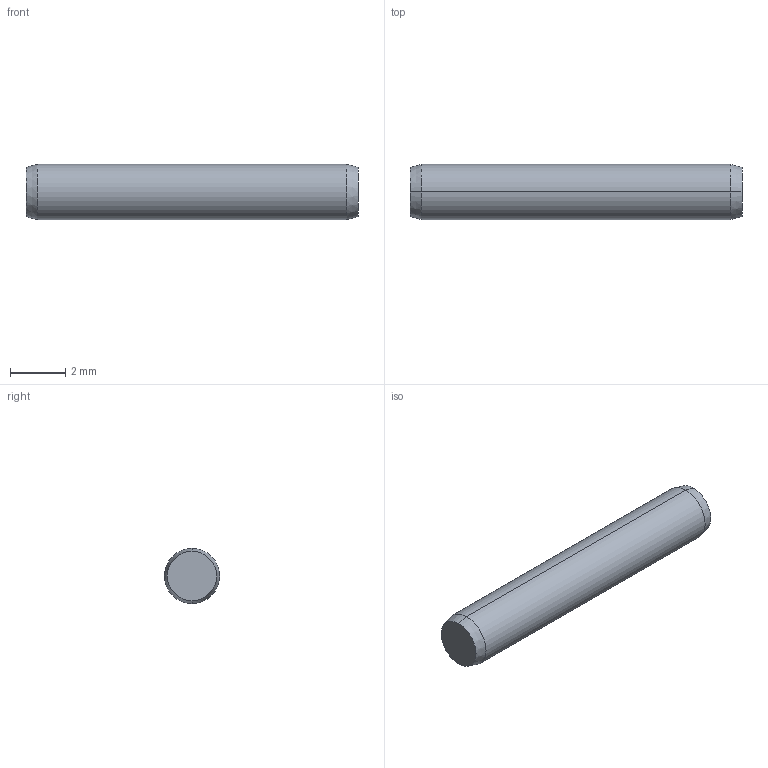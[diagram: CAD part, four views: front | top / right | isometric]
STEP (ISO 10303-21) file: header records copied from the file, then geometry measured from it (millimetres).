
FILE_DESCRIPTION (( 'STEP AP203' ), '1' );
FILE_NAME ('P1206.020-012.step', '2017-06-14T07:56:54', ( 'User' ), ( '' ), 'SwSTEP 2.0', 'SolidWorks 2009', '' );
FILE_SCHEMA (( 'CONFIG_CONTROL_DESIGN' ));
Length unit declared in the file: millimetre
Products named in the file (1): P1206.020-012
Bounding box: 12 x 2 x 2 mm (x, y, z)
Volume: 37.4 mm3; surface area: 80.3 mm2
Topology: 1 solids, 1 shells, 8 faces, 14 edges, 8 vertices
Faces by surface type: cone 4, cylinder 2, plane 2
Entity records: 271 total; most frequent: DIRECTION 40, CARTESIAN_POINT 31, ORIENTED_EDGE 28, AXIS2_PLACEMENT_3D 17, EDGE_CURVE 14, PERSON_AND_ORGANIZATION 8, FACE_OUTER_BOUND 8, ADVANCED_FACE 8
